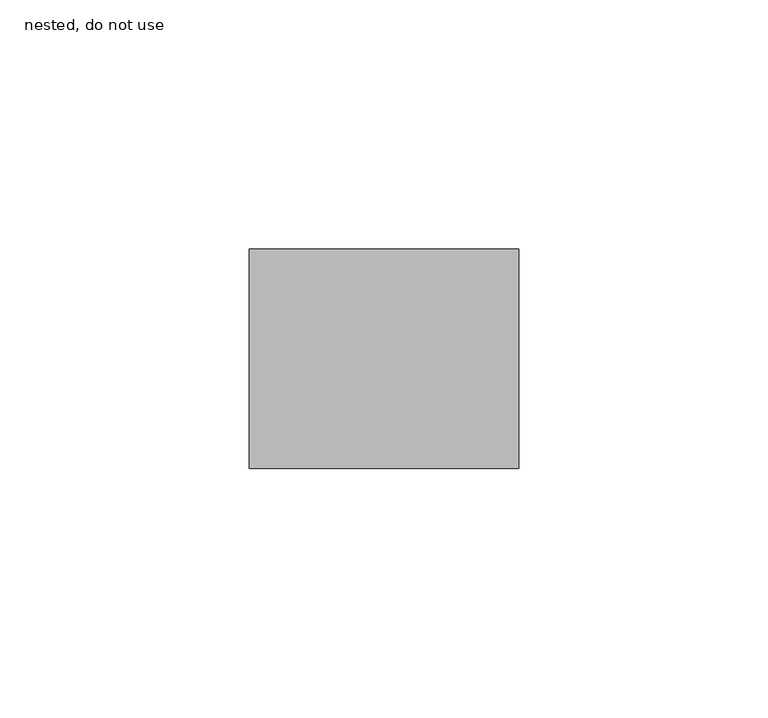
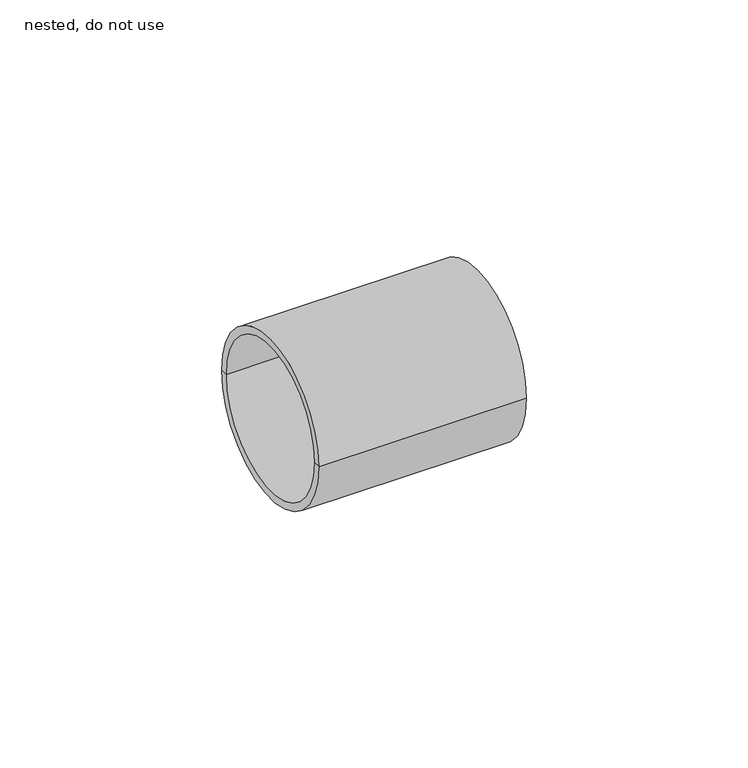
"""IFC4 building model written with IfcOpenShell, lengths in millimetres: pipe fitting geometry, NLRS_52_PIF_UN_Vacurain Flex steekmof_SH_Dyka : nested, do not use."""

from ifc_helpers import new_model, si_unit, frame, origin, place, context, project, spatial, polyline, circle_curve, source, transform, mapped, element, save
from ifc_brep_helpers import plane_surface, cylinder_surface, revolved_surface, advanced_brep


def nested_do_not_use_9b06eb31(model_context):
    return source(origin(), model_context, "Body", "AdvancedBrep", [
        advanced_brep(
        [(27.0, -22.0, 0.0), (27.0, 22.0, 0.0), (27.0, 20.0, 0.0), (27.0, -20.0, 0.0), (-27.0, -22.0, 0.0), (-27.0, 22.0, 0.0), (-27.0, -20.0, 0.0), (-27.0, 20.0, 0.0), (-1.0, -20.0, 0.0), (-1.0, 20.0, 0.0), (-1.0, 0.0, 0.0), (1.0, -20.0, 0.0), (1.0, 20.0, 0.0), (1.0, 0.0, 0.0)],
        [
            (0, 1, circle_curve(frame((27.0, 0.0, 0.0), z_axis=(1.0, 0.0, 0.0), x_axis=(0.0, 1.0, 0.0)), 22.0)),
            (1, 2),
            (2, 3, circle_curve(frame((27.0, 0.0, 0.0), z_axis=(-1.0, 0.0, 0.0), x_axis=(0.0, 1.0, 0.0)), 20.0)),
            (3, 0),
            (1, 0, circle_curve(frame((27.0, 0.0, 0.0), z_axis=(1.0, 0.0, 0.0), x_axis=(0.0, 1.0, 0.0)), 22.0)),
            (3, 2, circle_curve(frame((27.0, 0.0, 0.0), z_axis=(-1.0, 0.0, 0.0), x_axis=(0.0, 1.0, 0.0)), 20.0)),
            (4, 5, circle_curve(frame((-27.0, 0.0, 0.0), z_axis=(1.0, 0.0, 0.0), x_axis=(0.0, 1.0, 0.0)), 22.0)),
            (5, 1),
            (0, 4),
            (5, 4, circle_curve(frame((-27.0, 0.0, 0.0), z_axis=(1.0, 0.0, 0.0), x_axis=(0.0, 1.0, 0.0)), 22.0)),
            (6, 7, circle_curve(frame((-27.0, 0.0, 0.0), z_axis=(1.0, 0.0, 0.0), x_axis=(0.0, 1.0, 0.0)), 20.0)),
            (7, 5),
            (4, 6),
            (7, 6, circle_curve(frame((-27.0, 0.0, 0.0), z_axis=(1.0, 0.0, 0.0), x_axis=(0.0, 1.0, 0.0)), 20.0)),
            (8, 9, circle_curve(frame((-1.0, 0.0, 0.0), z_axis=(1.0, 0.0, 0.0), x_axis=(0.0, 1.0, 0.0)), 20.0)),
            (9, 7),
            (6, 8),
            (9, 8, circle_curve(frame((-1.0, 0.0, 0.0), z_axis=(1.0, 0.0, 0.0), x_axis=(0.0, 1.0, 0.0)), 20.0)),
            (10, 9),
            (8, 10),
            (11, 12, circle_curve(frame((1.0, 0.0, 0.0), z_axis=(1.0, 0.0, 0.0), x_axis=(0.0, 1.0, 0.0)), 20.0)),
            (12, 13),
            (13, 11),
            (12, 11, circle_curve(frame((1.0, 0.0, 0.0), z_axis=(1.0, 0.0, 0.0), x_axis=(0.0, 1.0, 0.0)), 20.0)),
            (2, 12),
            (11, 3),
        ],
        [
            plane_surface(frame((27.0, 0.0, 0.0), z_axis=(1.0, 0.0, 0.0), x_axis=(0.0, 1.0, 0.0))),
            cylinder_surface(frame((-33.9, 0.0, 0.0), z_axis=(-1.0, 0.0, 0.0), x_axis=(0.0, 1.0, 0.0)), 22.0),
            plane_surface(frame((-27.0, 0.0, 0.0), z_axis=(-1.0, 0.0, 0.0), x_axis=(0.0, 1.0, 0.0))),
            revolved_surface(polyline([(-27.0, 20.0, 0.0), (-1.0, 20.0, 0.0)]), (-33.9, 0.0, 0.0), (-1.0, 0.0, 0.0)),
            plane_surface(frame((-1.0, 0.0, 0.0), z_axis=(-1.0, 0.0, 0.0), x_axis=(0.0, 1.0, 0.0))),
            plane_surface(frame((1.0, 0.0, 0.0), z_axis=(1.0, 0.0, 0.0), x_axis=(0.0, 1.0, 0.0))),
            revolved_surface(polyline([(1.0, 20.0, 0.0), (27.0, 20.0, 0.0)]), (-33.9, 0.0, 0.0), (-1.0, 0.0, 0.0)),
        ],
        [
            (0, [[1, 2, 3, 4]]),
            (0, [[5, -4, 6, -2]]),
            (1, [[7, 8, -1, 9]]),
            (1, [[10, -9, -5, -8]]),
            (2, [[11, 12, -7, 13]]),
            (2, [[14, -13, -10, -12]]),
            (3, [[15, 16, -11, 17]]),
            (3, [[18, -17, -14, -16]]),
            (4, [[19, -15, 20]]),
            (4, [[-20, -18, -19]]),
            (5, [[21, 22, 23]]),
            (5, [[24, -23, -22]]),
            (6, [[-3, 25, -21, 26]]),
            (6, [[-6, -26, -24, -25]]),
        ],
    ),
    ])


if __name__ == "__main__":
    model = new_model("IFC4")
    model_context = context("Model", 3, world=origin())
    ifc_project = project(units=[si_unit("LENGTHUNIT", "METRE", prefix="MILLI")], contexts=[model_context])
    site = spatial("IfcSite", under=ifc_project)
    building = spatial("IfcBuilding", under=site)
    placement = place(None, origin())
    nested_do_not_use_shape = nested_do_not_use_9b06eb31(model_context)
    element("IfcPipeFitting", 1, ObjectType="NLRS_52_PIF_UN_Vacurain Flex steekmof_SH_Dyka : nested, do not use", at=placement, inside=building, context=model_context, shape_type="MappedRepresentation", body=[
        mapped(nested_do_not_use_shape, transform((0.0, 0.0, 0.0), x_axis=(1.0, 0.0, 0.0), y_axis=(0.0, 1.0, 0.0), z_axis=(0.0, 0.0, 1.0))),
    ])
    save(model, "model.ifc")
